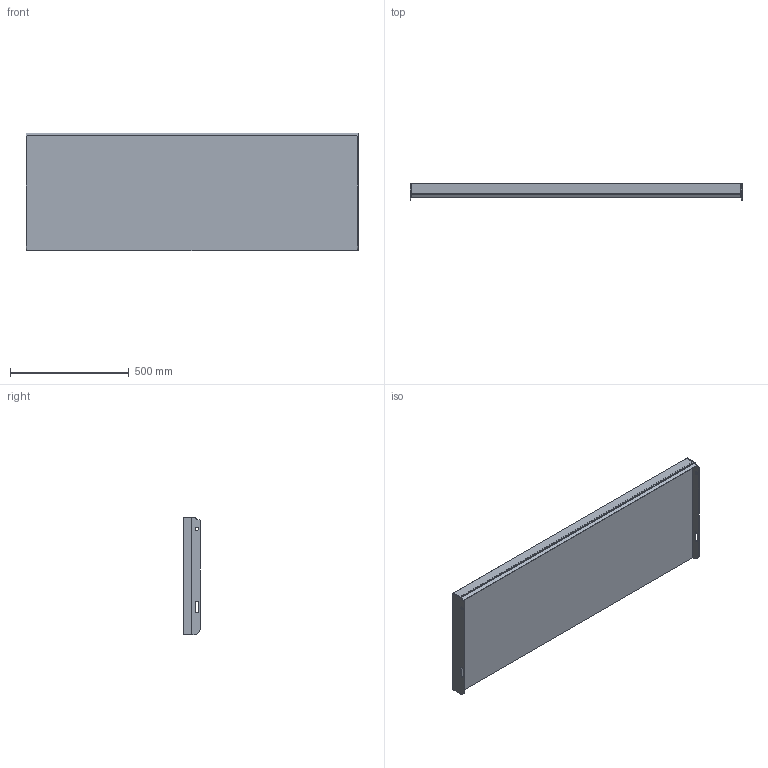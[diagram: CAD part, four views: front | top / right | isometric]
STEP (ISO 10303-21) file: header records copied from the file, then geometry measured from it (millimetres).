
FILE_DESCRIPTION (( 'STEP AP203' ), '1' );
FILE_NAME ('148814051, Plan TH6, 1400x500, vfz.STEP', '2020-10-21T13:20:18', ( '' ), ( '' ), 'SwSTEP 2.0', 'SolidWorks 2019', '' );
FILE_SCHEMA (( 'CONFIG_CONTROL_DESIGN' ));
Length unit declared in the file: millimetre
Products named in the file (4): SW0000041756; SW0000041806; SW0000041378; 148814051, Plan TH6, 1400x500, vfz
Assembly tree (4 placements, depth 2):
  148814051, Plan TH6, 1400x500, vfz
    SW0000041806
    SW0000041378  x2
    SW0000041756
Bounding box: 1400 x 70 x 497 mm (x, y, z)
Volume: 24554970 mm3; surface area: 1827691.9 mm2
Topology: 4 solids, 4 shells, 59 faces, 142 edges, 92 vertices
Faces by surface type: plane 45, cylinder 14
Entity records: 1693 total; most frequent: DIRECTION 221, CARTESIAN_POINT 220, ORIENTED_EDGE 206, EDGE_CURVE 103, VECTOR 87, LINE 87, AXIS2_PLACEMENT_3D 67, VERTEX_POINT 66
